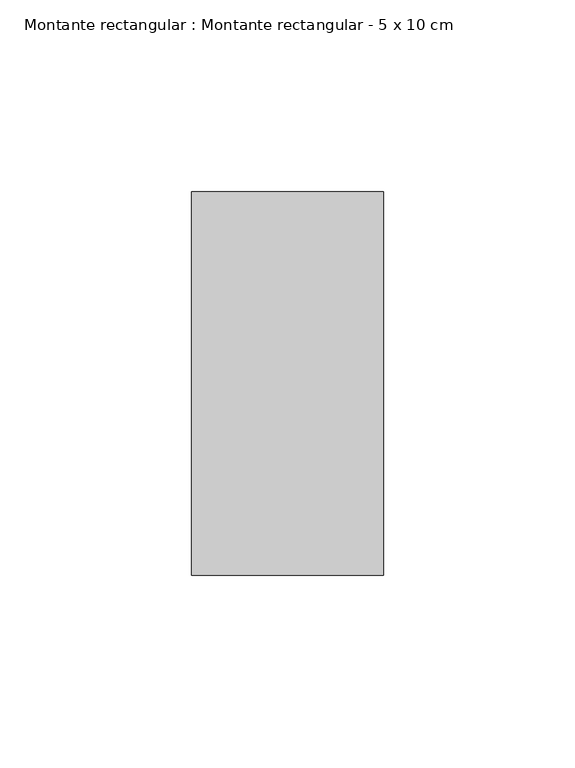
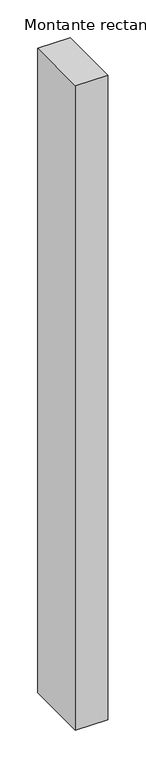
"""IFC4 building model written with IfcOpenShell, lengths in millimetres: member geometry, Montante rectangular : Montante rectangular - 5 x 10 cm."""

from ifc_helpers import new_model, si_unit, frame, origin, place, context, project, spatial, polyline, outline, extrude, source, transform, mapped, element, save


def montante_rectangular_montante_rectangular_5_x_10_cm_9ea849ff(model_context):
    return source(origin(), model_context, "Body", "SweptSolid", [
        extrude(outline(polyline([(25.0, 50.0), (25.0, -50.0), (-25.0, -50.0), (-25.0, 50.0), (25.0, 50.0)])), frame((0.0, 0.0, -1045.0), z_axis=(0.0, 0.0, 1.0), x_axis=(1.0, 0.0, 0.0)), (0.0, 0.0, 1.0), 1045.0),
    ])


if __name__ == "__main__":
    model = new_model("IFC4")
    model_context = context("Model", 3, world=origin())
    ifc_project = project(units=[si_unit("LENGTHUNIT", "METRE", prefix="MILLI")], contexts=[model_context])
    site = spatial("IfcSite", under=ifc_project)
    building = spatial("IfcBuilding", under=site)
    placement = place(None, origin())
    montante_rectangular_montante_rectangular_5_x_10_cm_shape = montante_rectangular_montante_rectangular_5_x_10_cm_9ea849ff(model_context)
    element("IfcMember", 1, ObjectType="Montante rectangular : Montante rectangular - 5 x 10 cm", at=placement, inside=building, context=model_context, shape_type="MappedRepresentation", body=[
        mapped(montante_rectangular_montante_rectangular_5_x_10_cm_shape, transform((0.0, 0.0, 0.0), x_axis=(1.0, 0.0, 0.0), y_axis=(0.0, 1.0, 0.0), z_axis=(0.0, 0.0, 1.0))),
    ])
    save(model, "model.ifc")
